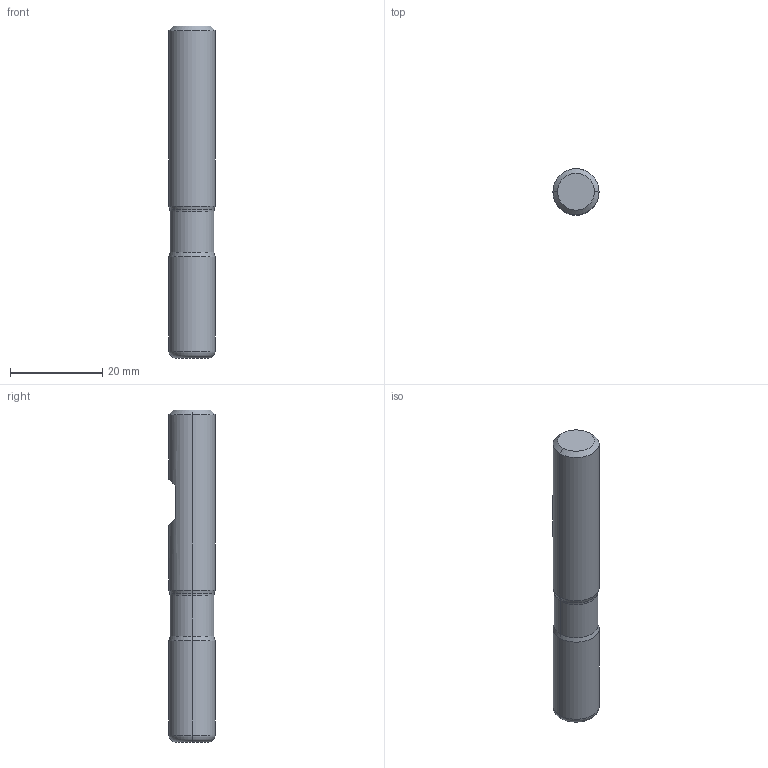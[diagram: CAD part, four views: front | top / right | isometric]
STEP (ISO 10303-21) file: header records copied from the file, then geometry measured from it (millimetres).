
FILE_DESCRIPTION (( 'STEP AP214' ), '1' );
FILE_NAME ('1.393.103.10_3D-model.step', '2022-02-15T17:20:02', ( '' ), ( '' ), 'SwSTEP 2.0', 'SolidWorks 2020', '' );
FILE_SCHEMA (( 'AUTOMOTIVE_DESIGN' ));
Length unit declared in the file: millimetre
Products named in the file (3): 1.393.103.10_3D-model; CUT-3D^Baugr112; NOCUT-3D^Baugr112
Assembly tree (2 placements, depth 2):
  1.393.103.10_3D-model
    CUT-3D^Baugr112
    NOCUT-3D^Baugr112
Bounding box: 10 x 10 x 72 mm (x, y, z)
Volume: 5488.8 mm3; surface area: 2520.9 mm2
Topology: 2 solids, 2 shells, 23 faces, 42 edges, 24 vertices
Faces by surface type: plane 7, cylinder 6, cone 6, torus 4
Entity records: 686 total; most frequent: DIRECTION 126, CARTESIAN_POINT 103, ORIENTED_EDGE 84, AXIS2_PLACEMENT_3D 55, EDGE_CURVE 42, EDGE_LOOP 24, VERTEX_POINT 24, CIRCLE 24
